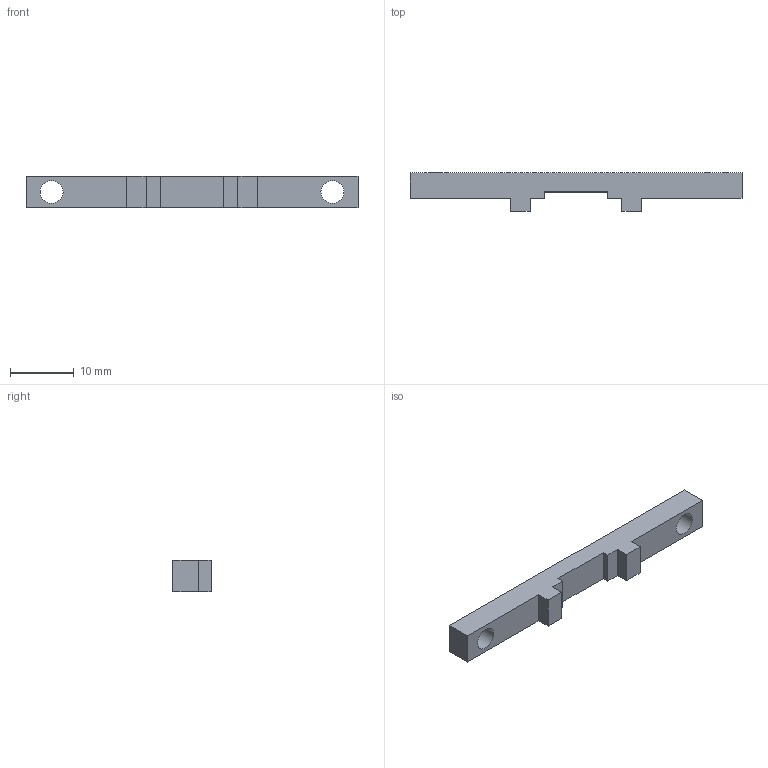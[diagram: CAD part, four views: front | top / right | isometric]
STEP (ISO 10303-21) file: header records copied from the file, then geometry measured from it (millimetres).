
FILE_DESCRIPTION(('Open CASCADE Model'),'2;1');
FILE_NAME('Open CASCADE Shape Model','2026-10-26T03:08:16',('Author'),( 'Open CASCADE'),'Open CASCADE STEP processor 7.9','build123d', 'Unknown');
FILE_SCHEMA(('AUTOMOTIVE_DESIGN { 1 0 10303 214 1 1 1 1 }'));
Length unit declared in the file: millimetre
Products named in the file (1): COMPOUND
Bounding box: 52 x 6 x 5 mm (x, y, z)
Volume: 968.6 mm3; surface area: 1079.8 mm2
Topology: 1 solids, 1 shells, 20 faces, 54 edges, 36 vertices
Faces by surface type: plane 18, cylinder 2
Full cylindrical faces by diameter (mm): 3.6 x2
Entity records: 1338 total; most frequent: CARTESIAN_POINT 259, DIRECTION 188, LINE 138, VECTOR 138, ORIENTED_EDGE 108, PCURVE 108, DEFINITIONAL_REPRESENTATION 108, EDGE_CURVE 54
